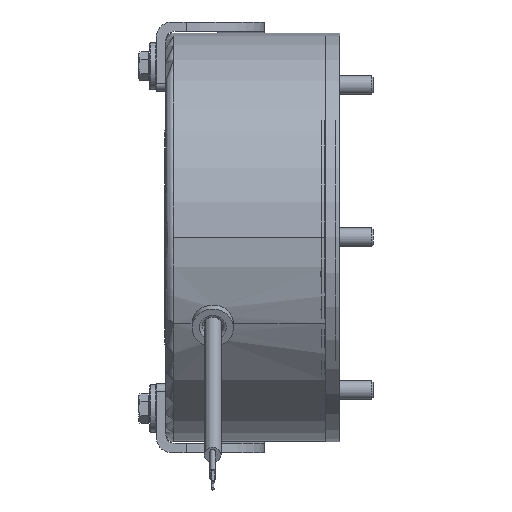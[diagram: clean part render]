
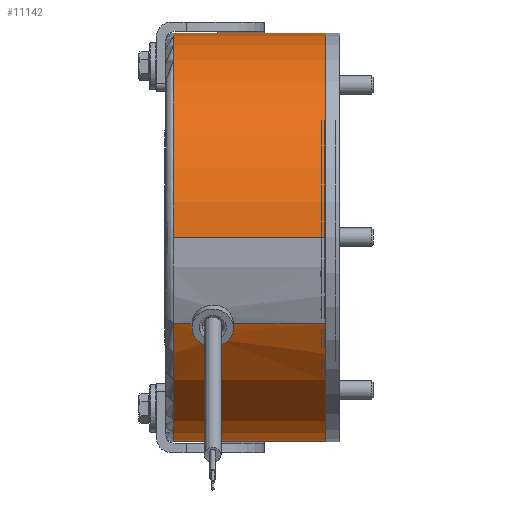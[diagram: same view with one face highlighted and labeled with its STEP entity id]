
A CAD part, front view. The second image highlights one B-rep face of the part: STEP entity #11142.
In plain terms, the highlighted cylindrical face has radius 65 mm (diameter 130 mm), a partial arc.
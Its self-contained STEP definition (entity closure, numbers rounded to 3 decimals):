
#237=B_SPLINE_CURVE_WITH_KNOTS('',3,(#17557,#17558,#17559,#17560,#17561,
#17562,#17563,#17564,#17565,#17566,#17567,#17568,#17569),.UNSPECIFIED.,
 .F.,.F.,(4,1,1,1,1,1,1,1,1,1,4),(-1.74,-1.657,-1.491,
-0.994,-0.746,-0.621,-0.497,
-0.373,-0.249,-0.124,0.),
 .UNSPECIFIED.);
#480=CYLINDRICAL_SURFACE('',#11942,65.);
#985=CIRCLE('',#11943,65.);
#986=CIRCLE('',#11944,65.);
#987=CIRCLE('',#11945,65.);
#988=CIRCLE('',#11946,65.);
#989=CIRCLE('',#11947,65.);
#1750=FACE_OUTER_BOUND('',#2380,.T.);
#2380=EDGE_LOOP('',(#7732,#7733,#7734,#7735,#7736,#7737,#7738,#7739,#7740,
#7741,#7742));
#3129=LINE('',#17539,#3708);
#3130=LINE('',#17547,#3709);
#3131=LINE('',#17553,#3710);
#3132=LINE('',#17555,#3711);
#3133=LINE('',#17570,#3712);
#3708=VECTOR('',#13773,65.);
#3709=VECTOR('',#13780,65.);
#3710=VECTOR('',#13785,65.);
#3711=VECTOR('',#13786,10.);
#3712=VECTOR('',#13787,10.);
#4428=VERTEX_POINT('',#17537);
#4429=VERTEX_POINT('',#17538);
#4430=VERTEX_POINT('',#17540);
#4431=VERTEX_POINT('',#17542);
#4432=VERTEX_POINT('',#17544);
#4433=VERTEX_POINT('',#17546);
#4434=VERTEX_POINT('',#17548);
#4435=VERTEX_POINT('',#17550);
#4436=VERTEX_POINT('',#17552);
#4437=VERTEX_POINT('',#17554);
#4438=VERTEX_POINT('',#17556);
#5684=EDGE_CURVE('',#4428,#4429,#3129,.T.);
#5685=EDGE_CURVE('',#4430,#4428,#985,.T.);
#5686=EDGE_CURVE('',#4431,#4430,#986,.T.);
#5687=EDGE_CURVE('',#4432,#4431,#987,.T.);
#5688=EDGE_CURVE('',#4433,#4432,#3130,.T.);
#5689=EDGE_CURVE('',#4434,#4433,#988,.T.);
#5690=EDGE_CURVE('',#4435,#4434,#989,.T.);
#5691=EDGE_CURVE('',#4436,#4435,#3131,.T.);
#5692=EDGE_CURVE('',#4437,#4436,#3132,.T.);
#5693=EDGE_CURVE('',#4438,#4437,#237,.T.);
#5694=EDGE_CURVE('',#4429,#4438,#3133,.T.);
#7732=ORIENTED_EDGE('',*,*,#5684,.F.);
#7733=ORIENTED_EDGE('',*,*,#5685,.F.);
#7734=ORIENTED_EDGE('',*,*,#5686,.F.);
#7735=ORIENTED_EDGE('',*,*,#5687,.F.);
#7736=ORIENTED_EDGE('',*,*,#5688,.F.);
#7737=ORIENTED_EDGE('',*,*,#5689,.F.);
#7738=ORIENTED_EDGE('',*,*,#5690,.F.);
#7739=ORIENTED_EDGE('',*,*,#5691,.F.);
#7740=ORIENTED_EDGE('',*,*,#5692,.F.);
#7741=ORIENTED_EDGE('',*,*,#5693,.F.);
#7742=ORIENTED_EDGE('',*,*,#5694,.F.);
#11142=ADVANCED_FACE('',(#1750),#480,.T.);
#11942=AXIS2_PLACEMENT_3D('',#17536,#13771,#13772);
#11943=AXIS2_PLACEMENT_3D('',#17541,#13774,#13775);
#11944=AXIS2_PLACEMENT_3D('',#17543,#13776,#13777);
#11945=AXIS2_PLACEMENT_3D('',#17545,#13778,#13779);
#11946=AXIS2_PLACEMENT_3D('',#17549,#13781,#13782);
#11947=AXIS2_PLACEMENT_3D('',#17551,#13783,#13784);
#13771=DIRECTION('center_axis',(1.,0.,0.));
#13772=DIRECTION('ref_axis',(0.,0.906,0.423));
#13773=DIRECTION('',(1.,0.,0.));
#13774=DIRECTION('center_axis',(-1.,0.,0.));
#13775=DIRECTION('ref_axis',(0.,-1.,0.));
#13776=DIRECTION('center_axis',(-1.,0.,0.));
#13777=DIRECTION('ref_axis',(0.,-1.,0.));
#13778=DIRECTION('center_axis',(-1.,0.,0.));
#13779=DIRECTION('ref_axis',(0.,-1.,0.));
#13780=DIRECTION('',(-1.,0.,0.));
#13781=DIRECTION('center_axis',(1.,0.,0.));
#13782=DIRECTION('ref_axis',(0.,1.,0.));
#13783=DIRECTION('center_axis',(1.,0.,0.));
#13784=DIRECTION('ref_axis',(0.,1.,0.));
#13785=DIRECTION('',(1.,0.,0.));
#13786=DIRECTION('',(1.,0.,0.));
#13787=DIRECTION('',(1.,0.,0.));
#17536=CARTESIAN_POINT('Origin',(-25.425,0.,0.));
#17537=CARTESIAN_POINT('',(-48.35,-58.91,-27.47));
#17538=CARTESIAN_POINT('',(-42.45,-58.91,-27.47));
#17539=CARTESIAN_POINT('',(-25.425,-58.91,-27.47));
#17540=CARTESIAN_POINT('',(-48.35,65.,0.));
#17541=CARTESIAN_POINT('Origin',(-48.35,0.,0.));
#17542=CARTESIAN_POINT('',(-48.35,0.,65.));
#17543=CARTESIAN_POINT('Origin',(-48.35,0.,0.));
#17544=CARTESIAN_POINT('',(-48.35,-65.,0.));
#17545=CARTESIAN_POINT('Origin',(-48.35,0.,0.));
#17546=CARTESIAN_POINT('',(0.,-65.,0.));
#17547=CARTESIAN_POINT('',(-25.425,-65.,0.));
#17548=CARTESIAN_POINT('',(0.,65.,0.));
#17549=CARTESIAN_POINT('Origin',(0.,0.,0.));
#17550=CARTESIAN_POINT('',(0.,-58.91,-27.47));
#17551=CARTESIAN_POINT('Origin',(0.,0.,0.));
#17552=CARTESIAN_POINT('',(-29.25,-58.91,-27.47));
#17553=CARTESIAN_POINT('',(-25.425,-58.91,-27.47));
#17554=CARTESIAN_POINT('',(-30.25,-58.91,-27.47));
#17555=CARTESIAN_POINT('',(-25.425,-58.91,-27.47));
#17556=CARTESIAN_POINT('',(-41.45,-58.91,-27.47));
#17557=CARTESIAN_POINT('Ctrl Pts',(-41.45,-58.91,
-27.47));
#17558=CARTESIAN_POINT('Ctrl Pts',(-41.451,-58.79,
-27.727));
#17559=CARTESIAN_POINT('Ctrl Pts',(-41.392,-58.426,
-28.498));
#17560=CARTESIAN_POINT('Ctrl Pts',(-40.65,-57.316,
-30.716));
#17561=CARTESIAN_POINT('Ctrl Pts',(-38.008,-56.251,
-32.571));
#17562=CARTESIAN_POINT('Ctrl Pts',(-34.996,-56.258,
-32.559));
#17563=CARTESIAN_POINT('Ctrl Pts',(-33.36,-56.546,
-32.056));
#17564=CARTESIAN_POINT('Ctrl Pts',(-32.165,-56.933,
-31.368));
#17565=CARTESIAN_POINT('Ctrl Pts',(-31.191,-57.459,
-30.396));
#17566=CARTESIAN_POINT('Ctrl Pts',(-30.56,-58.031,
-29.291));
#17567=CARTESIAN_POINT('Ctrl Pts',(-30.277,-58.558,
-28.22));
#17568=CARTESIAN_POINT('Ctrl Pts',(-30.25,-58.791,
-27.724));
#17569=CARTESIAN_POINT('Ctrl Pts',(-30.25,-58.91,
-27.47));
#17570=CARTESIAN_POINT('',(-25.425,-58.91,-27.47));
